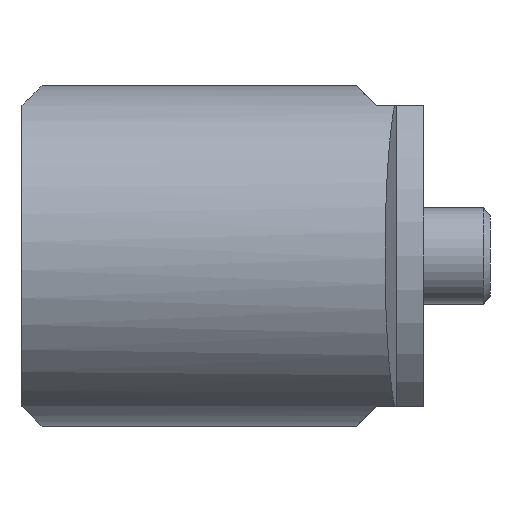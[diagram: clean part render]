
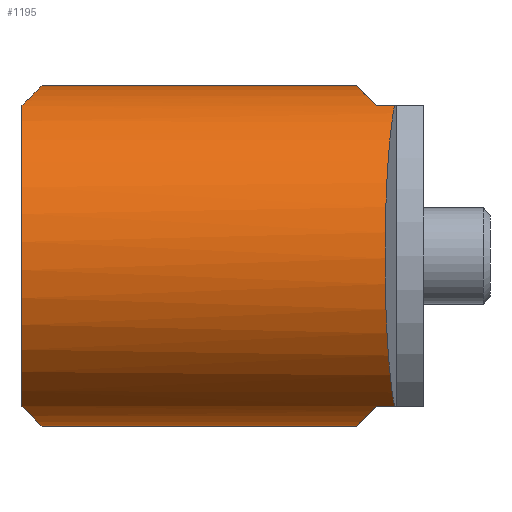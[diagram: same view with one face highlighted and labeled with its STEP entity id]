
A CAD part, left-side view. The second image highlights one B-rep face of the part: STEP entity #1195.
In plain terms, the highlighted cylindrical face has radius 12.75 mm (diameter 25.5 mm), a partial arc.
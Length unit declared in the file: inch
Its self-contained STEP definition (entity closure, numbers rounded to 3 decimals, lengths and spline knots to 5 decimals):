
#22=ELLIPSE('',#1287,0.70989,0.50197);
#23=ELLIPSE('',#1290,0.70989,0.50197);
#24=ELLIPSE('',#1293,0.70989,0.50197);
#25=ELLIPSE('',#1295,0.70989,0.50197);
#26=ELLIPSE('',#1299,0.50473,0.50197);
#98=FACE_OUTER_BOUND('',#167,.T.);
#167=EDGE_LOOP('',(#815,#816,#817,#818,#819,#820,#821,#822,#823,#824));
#245=LINE('',#1863,#318);
#258=LINE('',#1893,#331);
#267=LINE('',#1918,#340);
#268=LINE('',#1920,#341);
#318=VECTOR('',#1471,0.3937);
#331=VECTOR('',#1490,0.3937);
#340=VECTOR('',#1517,0.3937);
#341=VECTOR('',#1520,0.3937);
#395=CIRCLE('',#1301,0.50197);
#481=VERTEX_POINT('',#1853);
#482=VERTEX_POINT('',#1854);
#485=VERTEX_POINT('',#1862);
#490=VERTEX_POINT('',#1874);
#491=VERTEX_POINT('',#1875);
#498=VERTEX_POINT('',#1890);
#499=VERTEX_POINT('',#1892);
#501=VERTEX_POINT('',#1898);
#503=VERTEX_POINT('',#1904);
#504=VERTEX_POINT('',#1905);
#604=EDGE_CURVE('',#481,#482,#22,.T.);
#608=EDGE_CURVE('',#482,#485,#245,.T.);
#614=EDGE_CURVE('',#490,#491,#23,.T.);
#622=EDGE_CURVE('',#499,#498,#258,.T.);
#625=EDGE_CURVE('',#498,#501,#24,.T.);
#628=EDGE_CURVE('',#503,#504,#25,.T.);
#634=EDGE_CURVE('',#485,#499,#26,.T.);
#635=EDGE_CURVE('',#501,#503,#267,.T.);
#636=EDGE_CURVE('',#490,#504,#395,.T.);
#637=EDGE_CURVE('',#481,#491,#268,.T.);
#815=ORIENTED_EDGE('',*,*,#604,.T.);
#816=ORIENTED_EDGE('',*,*,#608,.T.);
#817=ORIENTED_EDGE('',*,*,#634,.T.);
#818=ORIENTED_EDGE('',*,*,#622,.T.);
#819=ORIENTED_EDGE('',*,*,#625,.T.);
#820=ORIENTED_EDGE('',*,*,#635,.T.);
#821=ORIENTED_EDGE('',*,*,#628,.T.);
#822=ORIENTED_EDGE('',*,*,#636,.F.);
#823=ORIENTED_EDGE('',*,*,#614,.T.);
#824=ORIENTED_EDGE('',*,*,#637,.F.);
#1091=CYLINDRICAL_SURFACE('',#1300,0.50197);
#1195=ADVANCED_FACE('',(#98),#1091,.T.);
#1287=AXIS2_PLACEMENT_3D('',#1855,#1464,#1465);
#1290=AXIS2_PLACEMENT_3D('',#1876,#1479,#1480);
#1293=AXIS2_PLACEMENT_3D('',#1899,#1495,#1496);
#1295=AXIS2_PLACEMENT_3D('',#1906,#1501,#1502);
#1299=AXIS2_PLACEMENT_3D('',#1916,#1513,#1514);
#1300=AXIS2_PLACEMENT_3D('',#1917,#1515,#1516);
#1301=AXIS2_PLACEMENT_3D('',#1919,#1518,#1519);
#1464=DIRECTION('center_axis',(0.,0.707,0.707));
#1465=DIRECTION('ref_axis',(0.,-0.707,0.707));
#1471=DIRECTION('',(0.,-1.,0.));
#1479=DIRECTION('center_axis',(0.,-0.707,0.707));
#1480=DIRECTION('ref_axis',(0.,0.707,0.707));
#1490=DIRECTION('',(0.,1.,0.));
#1495=DIRECTION('center_axis',(0.,0.707,-0.707));
#1496=DIRECTION('ref_axis',(0.,0.707,0.707));
#1501=DIRECTION('center_axis',(0.,-0.707,-0.707));
#1502=DIRECTION('ref_axis',(0.,-0.707,0.707));
#1513=DIRECTION('center_axis',(0.105,0.995,0.));
#1514=DIRECTION('ref_axis',(-0.995,0.105,0.));
#1515=DIRECTION('center_axis',(0.,-1.,0.));
#1516=DIRECTION('ref_axis',(0.,0.,1.));
#1517=DIRECTION('',(0.,1.,0.));
#1518=DIRECTION('center_axis',(0.,1.,0.));
#1519=DIRECTION('ref_axis',(0.,0.,1.));
#1520=DIRECTION('',(0.,1.,0.));
#1853=CARTESIAN_POINT('',(-0.93589,-0.50139,-0.50197));
#1854=CARTESIAN_POINT('',(-1.17211,-0.56045,-0.44291));
#1855=CARTESIAN_POINT('Origin',(-0.93589,-1.00336,0.));
#1862=CARTESIAN_POINT('',(-1.17211,-0.61392,-0.44291));
#1863=CARTESIAN_POINT('',(-1.17211,0.48286,-0.44291));
#1874=CARTESIAN_POINT('',(-1.17211,0.48286,-0.44291));
#1875=CARTESIAN_POINT('',(-0.93589,0.4238,-0.50197));
#1876=CARTESIAN_POINT('Origin',(-0.93589,0.92577,0.));
#1890=CARTESIAN_POINT('',(-1.17211,-0.56045,0.44291));
#1892=CARTESIAN_POINT('',(-1.17211,-0.61392,0.44291));
#1893=CARTESIAN_POINT('',(-1.17211,0.48286,0.44291));
#1898=CARTESIAN_POINT('',(-0.93589,-0.50139,0.50197));
#1899=CARTESIAN_POINT('Origin',(-0.93589,-1.00336,0.));
#1904=CARTESIAN_POINT('',(-0.93589,0.4238,0.50197));
#1905=CARTESIAN_POINT('',(-1.17211,0.48286,0.44291));
#1906=CARTESIAN_POINT('Origin',(-0.93589,0.92577,0.));
#1916=CARTESIAN_POINT('Origin',(-0.93589,-0.63874,0.));
#1917=CARTESIAN_POINT('Origin',(-0.93589,0.48286,0.));
#1918=CARTESIAN_POINT('',(-0.93589,0.48286,0.50197));
#1919=CARTESIAN_POINT('Origin',(-0.93589,0.48286,0.));
#1920=CARTESIAN_POINT('',(-0.93589,0.48286,-0.50197));
